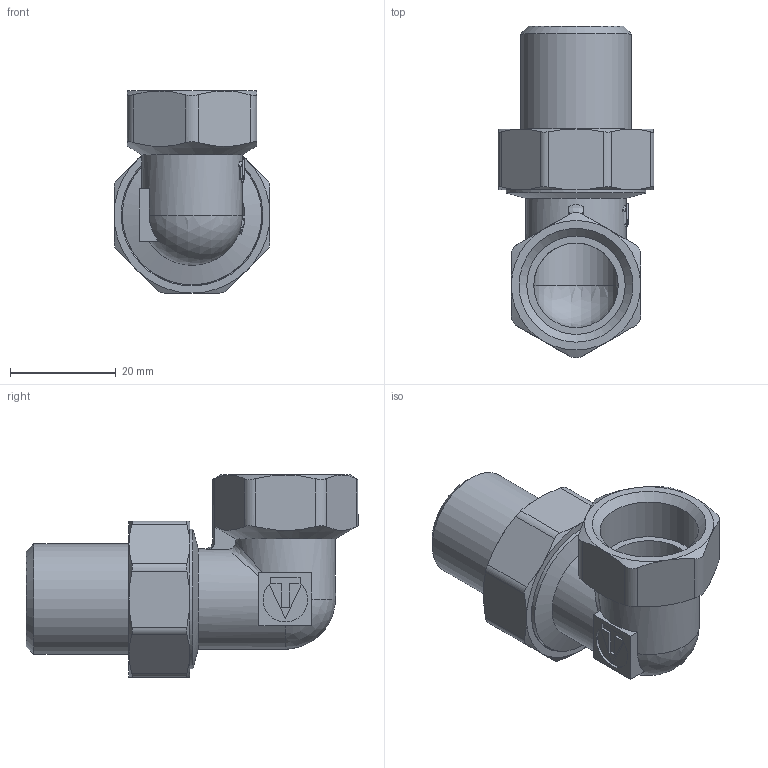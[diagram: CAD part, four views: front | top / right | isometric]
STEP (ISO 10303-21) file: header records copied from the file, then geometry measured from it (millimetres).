
FILE_DESCRIPTION(('STEP AP203'), '1');
FILE_NAME('覆.302635.004.000 捘 - VTr.098.N.0004', '2024-06-24T10:13:03', ('Boss'), (''), 'C3D Converter', 'C3D Toolkit', '');
FILE_SCHEMA(('CONFIG_CONTROL_DESIGN'));
Length unit declared in the file: millimetre
Products named in the file (1): ВР.302635.004.000 СБ
Bounding box: 29.5 x 62.85 x 38.25 mm (x, y, z)
Volume: 14662 mm3; surface area: 11539.9 mm2
Topology: 1 solids, 3 shells, 293 faces, 774 edges, 502 vertices
Faces by surface type: extrusion 116, plane 92, cylinder 42, cone 32, bspline 5, torus 4, sphere 2
Full cylindrical faces by diameter (mm): 15.5 x1, 16 x2, 18 x1, 18.632 x1, 19 x2, 20.955 x1, 22 x1, 23 x1, 24.118 x1, 26.4 x1
Entity records: 13351 total; most frequent: CARTESIAN_POINT 7025, ORIENTED_EDGE 1486, DIRECTION 885, EDGE_CURVE 743, VERTEX_POINT 501, B_SPLINE_CURVE_WITH_KNOTS 442, VECTOR 365, EDGE_LOOP 342
